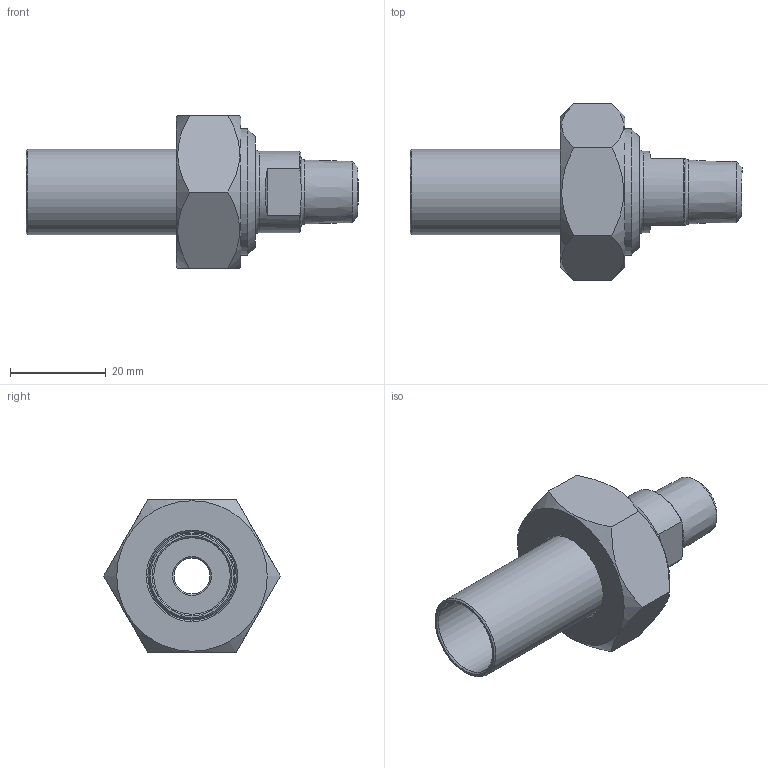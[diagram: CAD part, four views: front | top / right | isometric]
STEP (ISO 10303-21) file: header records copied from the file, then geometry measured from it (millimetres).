
FILE_DESCRIPTION(/* description */ (''),/* implementation_level */ '2;1');
FILE_NAME(/* name */ 'C:\Users\cad\Desktop\Zeichnungen neu von Ralph\Ganze Kupplungen\3D_Kupplung-R666-PE-UG\3D_R666-PE-UG-18-DN20-DN8_1711309516.stp',/* time_stamp */ '2021-07-16T10:40:52+02:00',/* author */ ('cad'),/* organization */ (''),/* preprocessor_version */ 'ST-DEVELOPER v18.1',/* originating_system */ 'Autodesk Inventor 2022',/* authorisation */ '');
FILE_SCHEMA (('AUTOMOTIVE_DESIGN { 1 0 10303 214 3 1 1 }'));
Length unit declared in the file: millimetre
Products named in the file (4): 3D_R666-PE-UG-18-DN20-DN8_1711309516; 3D_R666-M-DN20_17113920; 3D_R666-UG-DN8-DN20_17113605; 3D_R666-PE-18-DN20_17113463
Assembly tree (3 placements, depth 2):
  3D_R666-PE-UG-18-DN20-DN8_1711309516
    3D_R666-M-DN20_17113920
    3D_R666-UG-DN8-DN20_17113605
    3D_R666-PE-18-DN20_17113463
Bounding box: 69.5 x 36.95 x 32 mm (x, y, z)
Volume: 15875.9 mm3; surface area: 11175.5 mm2
Topology: 3 solids, 3 shells, 51 faces, 122 edges, 80 vertices
Faces by surface type: plane 21, cone 18, cylinder 8, torus 4
Full cylindrical faces by diameter (mm): 7.5 x1, 16 x1, 17 x1, 18 x1, 18.5 x1, 23.5 x1, 24.117 x1, 26.4 x1
Entity records: 1659 total; most frequent: CARTESIAN_POINT 311, DIRECTION 282, ORIENTED_EDGE 244, EDGE_CURVE 122, AXIS2_PLACEMENT_3D 121, VERTEX_POINT 80, CIRCLE 61, EDGE_LOOP 60
